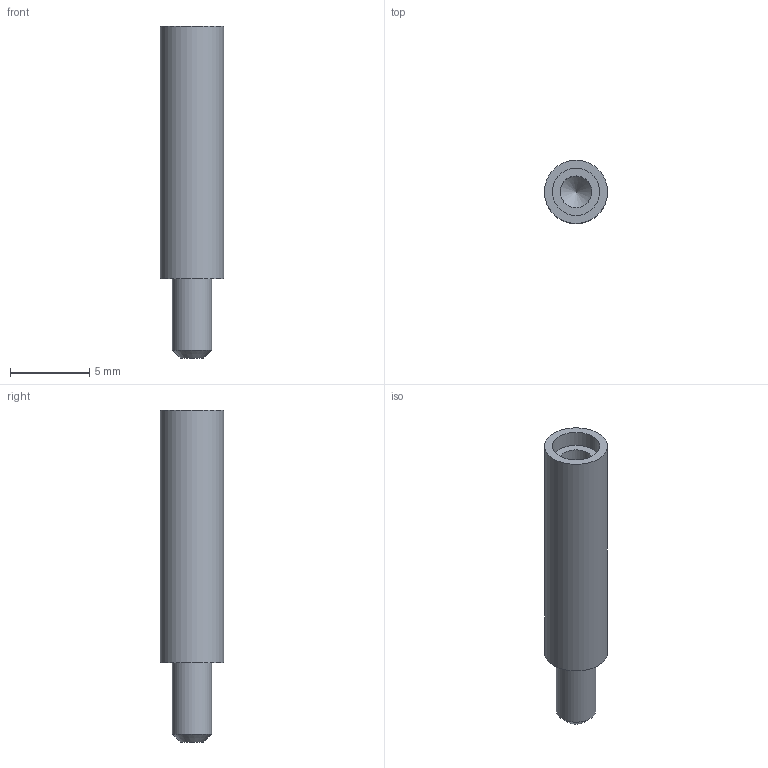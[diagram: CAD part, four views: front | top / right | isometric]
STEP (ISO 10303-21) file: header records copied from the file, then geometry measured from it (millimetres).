
FILE_DESCRIPTION(/* description */ ('Extension Dial Gage'),/* implementation_level */ '2;1');
FILE_NAME(/* name */ 'Z:\Werkstatt Server\Projekte\Atlas\Entwicklung u. Konstruktion\Konstruktion\CAD Daten\ITkPixToolV2.0\Baremodule Jig\ITPTv2.01.00.06.stp',/* time_stamp */ '2021-08-06T14:53:55+02:00',/* author */ ('Tim Kanngießer'),/* organization */ (''),/* preprocessor_version */ 'ST-DEVELOPER v18.1',/* originating_system */ 'Autodesk Inventor 2022',/* authorisation */ '');
FILE_SCHEMA (('AUTOMOTIVE_DESIGN { 1 0 10303 214 3 1 1 }'));
Length unit declared in the file: millimetre
Products named in the file (1): ITPTv2.01.00.06
Bounding box: 4 x 4 x 21 mm (x, y, z)
Volume: 188 mm3; surface area: 330.5 mm2
Topology: 1 solids, 1 shells, 10 faces, 17 edges, 11 vertices
Faces by surface type: plane 4, cylinder 4, cone 2
Full cylindrical faces by diameter (mm): 2.013 x1, 2.5 x1, 3 x1, 4 x1
Entity records: 279 total; most frequent: DIRECTION 48, CARTESIAN_POINT 38, ORIENTED_EDGE 32, AXIS2_PLACEMENT_3D 21, EDGE_CURVE 16, EDGE_LOOP 13, VERTEX_POINT 11, FACE_OUTER_BOUND 10
